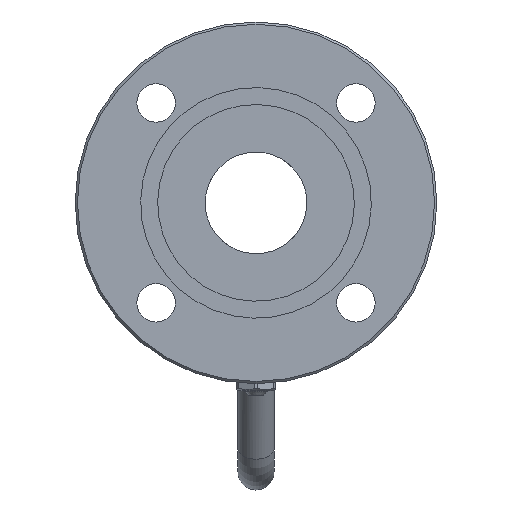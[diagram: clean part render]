
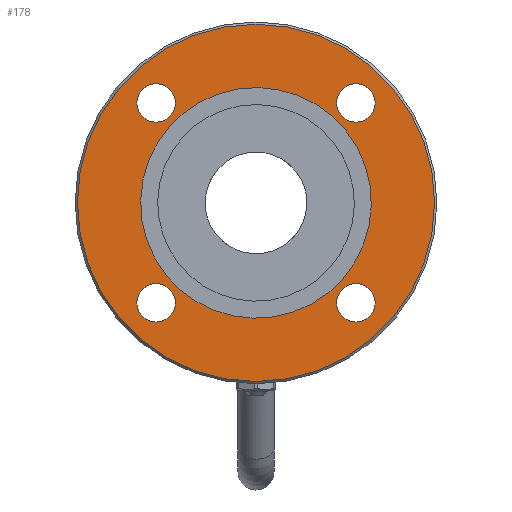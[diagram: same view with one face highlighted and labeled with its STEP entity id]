
A CAD part, left-side view. The second image highlights one B-rep face of the part: STEP entity #178.
In plain terms, the highlighted planar face has unit normal (-1, 0, 0).
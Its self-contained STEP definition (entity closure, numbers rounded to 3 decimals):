
#178=ADVANCED_FACE('',(#1509,#1511,#1513,#1515,#1517,#1519),#1521,.T.);
#1509=FACE_BOUND('',#1510,.T.);
#1510=EDGE_LOOP('',(#2352));
#1511=FACE_BOUND('',#1512,.T.);
#1512=EDGE_LOOP('',(#2353));
#1513=FACE_BOUND('',#1514,.T.);
#1514=EDGE_LOOP('',(#2354));
#1515=FACE_BOUND('',#1516,.T.);
#1516=EDGE_LOOP('',(#2355));
#1517=FACE_BOUND('',#1518,.T.);
#1518=EDGE_LOOP('',(#2356));
#1519=FACE_OUTER_BOUND('',#1520,.T.);
#1520=EDGE_LOOP('',(#2357));
#1521=PLANE('',#1522);
#1522=AXIS2_PLACEMENT_3D('',#1523,#1524,#1525);
#1523=CARTESIAN_POINT('',(-78.,0.,0.));
#1524=DIRECTION('',(-1.,0.,0.));
#1525=DIRECTION('',(0.,-1.,0.));
#2352=ORIENTED_EDGE('',*,*,#3319,.T.);
#2353=ORIENTED_EDGE('',*,*,#3320,.T.);
#2354=ORIENTED_EDGE('',*,*,#3322,.T.);
#2355=ORIENTED_EDGE('',*,*,#3324,.T.);
#2356=ORIENTED_EDGE('',*,*,#3346,.T.);
#2357=ORIENTED_EDGE('',*,*,#3347,.T.);
#3319=EDGE_CURVE('',#3681,#3681,#3683,.T.);
#3320=EDGE_CURVE('',#3684,#3684,#3685,.T.);
#3322=EDGE_CURVE('',#3687,#3687,#3688,.T.);
#3324=EDGE_CURVE('',#3690,#3690,#3691,.T.);
#3346=EDGE_CURVE('',#3727,#3727,#3728,.T.);
#3347=EDGE_CURVE('',#3729,#3729,#3730,.T.);
#3681=VERTEX_POINT('',#5265);
#3683=CIRCLE('',#5269,8.5);
#3684=VERTEX_POINT('',#5273);
#3685=CIRCLE('',#5274,8.5);
#3687=VERTEX_POINT('',#5281);
#3688=CIRCLE('',#5282,8.5);
#3690=VERTEX_POINT('',#5289);
#3691=CIRCLE('',#5290,8.5);
#3727=VERTEX_POINT('',#5497);
#3728=CIRCLE('',#5498,51.);
#3729=VERTEX_POINT('',#5502);
#3730=CIRCLE('',#5503,79.);
#5265=CARTESIAN_POINT('',(-78.,44.194,-52.694));
#5269=AXIS2_PLACEMENT_3D('',#5270,#5271,#5272);
#5270=CARTESIAN_POINT('',(-78.,44.194,-44.194));
#5271=DIRECTION('',(1.,0.,0.));
#5272=DIRECTION('',(0.,0.,-1.));
#5273=CARTESIAN_POINT('',(-78.,52.694,44.194));
#5274=AXIS2_PLACEMENT_3D('',#5275,#5276,#5277);
#5275=CARTESIAN_POINT('',(-78.,44.194,44.194));
#5276=DIRECTION('',(1.,0.,0.));
#5277=DIRECTION('',(0.,1.,0.));
#5281=CARTESIAN_POINT('',(-78.,-44.194,52.694));
#5282=AXIS2_PLACEMENT_3D('',#5283,#5284,#5285);
#5283=CARTESIAN_POINT('',(-78.,-44.194,44.194));
#5284=DIRECTION('',(1.,0.,0.));
#5285=DIRECTION('',(0.,0.,1.));
#5289=CARTESIAN_POINT('',(-78.,-52.694,-44.194));
#5290=AXIS2_PLACEMENT_3D('',#5291,#5292,#5293);
#5291=CARTESIAN_POINT('',(-78.,-44.194,-44.194));
#5292=DIRECTION('',(1.,0.,0.));
#5293=DIRECTION('',(0.,-1.,0.));
#5497=CARTESIAN_POINT('',(-78.,38.24,33.745));
#5498=AXIS2_PLACEMENT_3D('',#5499,#5500,#5501);
#5499=CARTESIAN_POINT('',(-78.,0.,0.));
#5500=DIRECTION('',(1.,0.,0.));
#5501=DIRECTION('',(0.,0.75,0.662));
#5502=CARTESIAN_POINT('',(-78.,-79.,0.));
#5503=AXIS2_PLACEMENT_3D('',#5504,#5505,#5506);
#5504=CARTESIAN_POINT('',(-78.,0.,0.));
#5505=DIRECTION('',(-1.,0.,0.));
#5506=DIRECTION('',(0.,-1.,0.));
